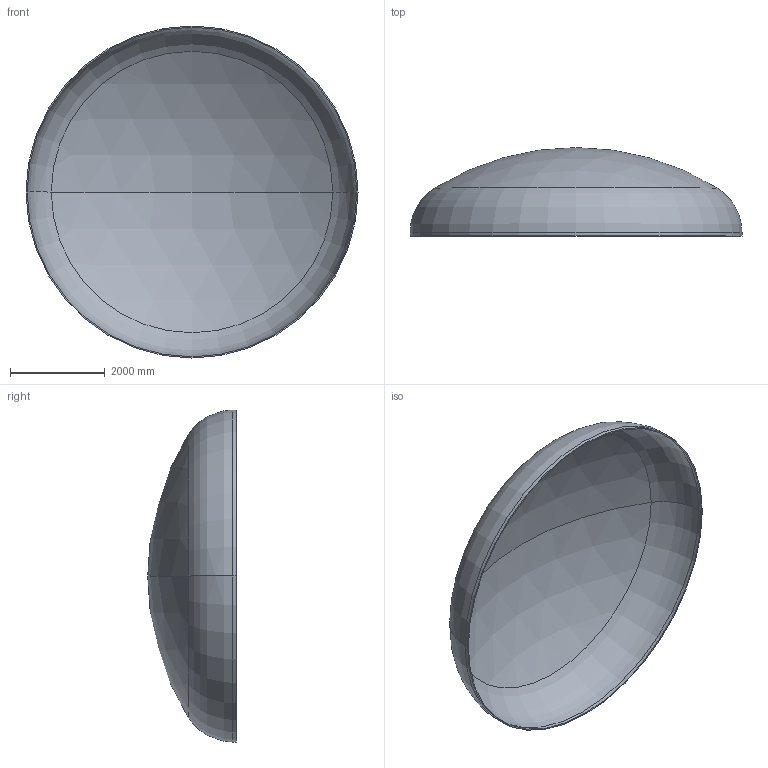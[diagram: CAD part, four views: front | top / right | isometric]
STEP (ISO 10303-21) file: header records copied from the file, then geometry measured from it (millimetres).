
FILE_DESCRIPTION (( 'STEP AP203' ), '1' );
FILE_NAME ('DIN 28013 Korbbogenform_-_Boden DIN 28013 - 7000 x 75 - I - s=25.step', '2016-07-04T10:46:07', ( '' ), ( '' ), 'SwSTEP 2.0', 'SolidWorks 2013', '' );
FILE_SCHEMA (( 'CONFIG_CONTROL_DESIGN' ));
Length unit declared in the file: millimetre
Products named in the file (1): DIN 28013 Korbbogenform_-_Boden DIN 28013 - 7000 x 75 - I - s=25
Bounding box: 7000 x 1866.68 x 7000 mm (x, y, z)
Volume: 1367878448.2 mm3; surface area: 109979355.9 mm2
Topology: 1 solids, 1 shells, 13 faces, 24 edges, 14 vertices
Faces by surface type: torus 4, cylinder 4, sphere 4, plane 1
Entity records: 407 total; most frequent: DIRECTION 72, CARTESIAN_POINT 52, ORIENTED_EDGE 48, AXIS2_PLACEMENT_3D 34, EDGE_CURVE 24, CIRCLE 20, EDGE_LOOP 14, VERTEX_POINT 14
